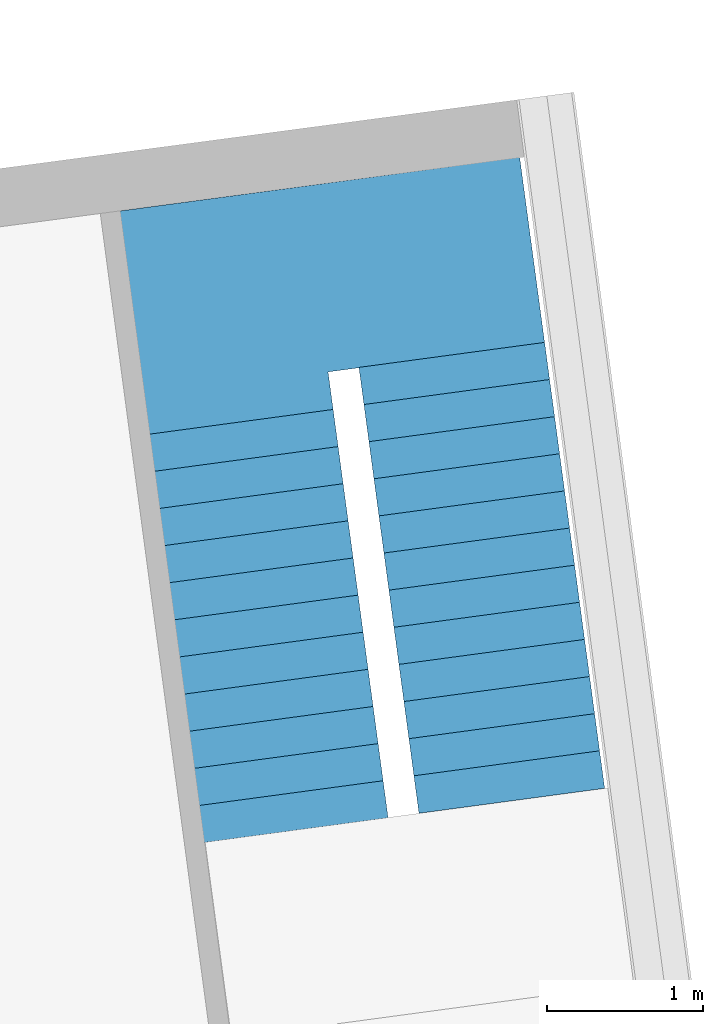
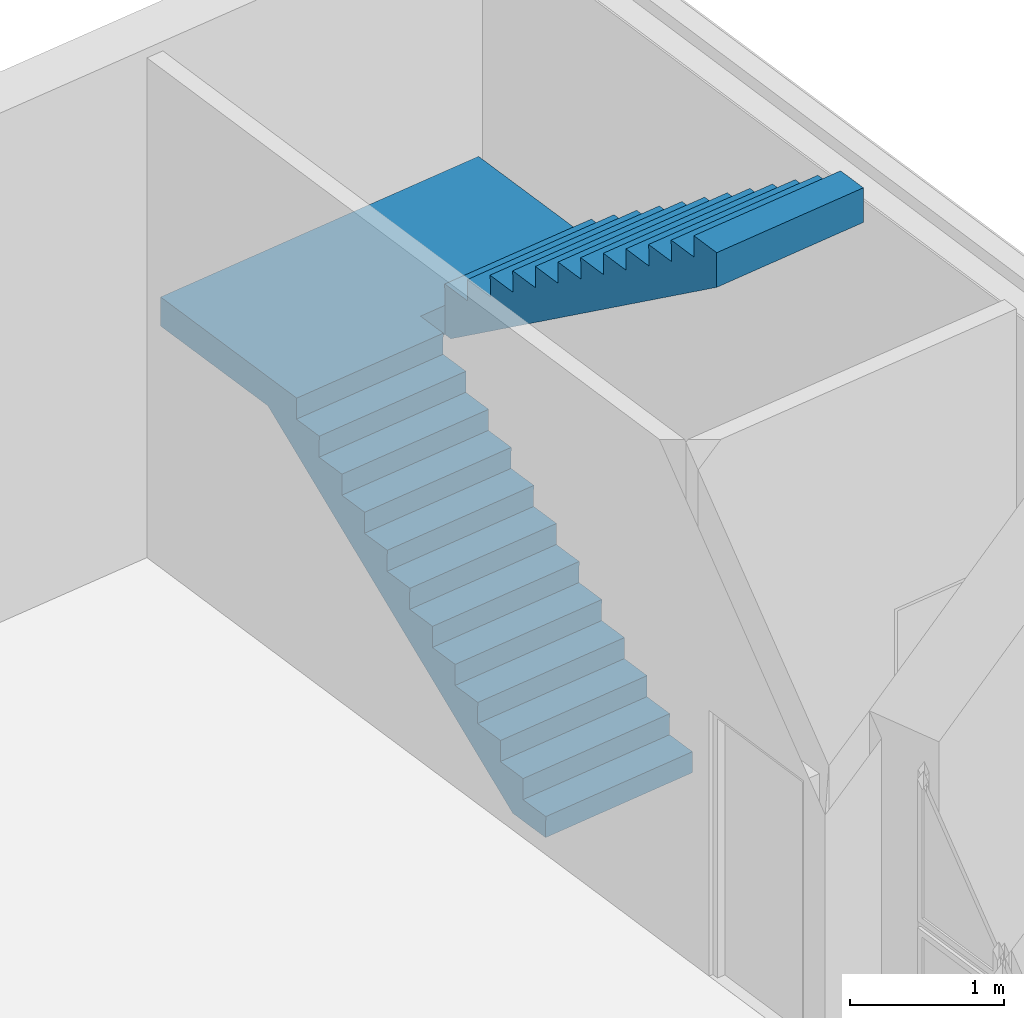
# One storey, part 26 of 27: 1 stair.
"""IFC2X3 building model written with IfcOpenShell, lengths in metres."""

from ifc_helpers import new_model, entity, si_unit, converted_unit, money_unit, direction, frame, origin_with_axes, place, context, subcontext, project, spatial, faceted_brep, material, element, save


model = new_model("IFC2X3")

# Units and contexts
model_context = context("Model", 3, precision=1e-05, world=origin_with_axes(), true_north=direction((0.0, 1.0)))
body_context = subcontext(model_context, "Body", "Model", "MODEL_VIEW")
ifc_project = project(units=[si_unit("LENGTHUNIT", "METRE"), si_unit("AREAUNIT", "SQUARE_METRE"), si_unit("VOLUMEUNIT", "CUBIC_METRE"), converted_unit("PLANEANGLEUNIT", "DEGREE", entity("IfcPlaneAngleMeasure", 0.0174532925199), si_unit("PLANEANGLEUNIT", "RADIAN"), dimensions=[0, 0, 0, 0, 0, 0, 0]), si_unit("SOLIDANGLEUNIT", "STERADIAN"), money_unit("EUR"), converted_unit("TIMEUNIT", "Year", entity("IfcTimeMeasure", 31556926.0), si_unit("TIMEUNIT", "SECOND"), dimensions=[0, 0, 0, 0, 0, 0, 0]), si_unit("MASSUNIT", "GRAM"), si_unit("THERMODYNAMICTEMPERATUREUNIT", "DEGREE_CELSIUS"), si_unit("LUMINOUSINTENSITYUNIT", "LUMEN")], contexts=[model_context])

# Site, building, storey
site_placement = place(None, origin_with_axes())
site = spatial("IfcSite", under=ifc_project, at=site_placement, Name="Undefined", CompositionType="ELEMENT")
building_placement = place(site_placement, origin_with_axes())
building = spatial("IfcBuilding", under=site, at=building_placement, Name="Undefined", CompositionType="ELEMENT")
storey_placement = place(building_placement, frame((0.0, 0.0, 5.4), z_axis=(0.0, 0.0, 1.0), x_axis=(1.0, 0.0, 0.0)))
storey = spatial("IfcBuildingStorey", under=building, at=storey_placement, Name="R+1", CompositionType="ELEMENT", Elevation=5.4)

# Stair
ifc_material = material(Name="Concrete Block")
stair_placement = place(storey_placement, frame((64.9501202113, 23.0953457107, 0.0), z_axis=(0.0, 0.0, 1.0), x_axis=(0.133411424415, -0.99106074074, 0.0)))
element("IfcStair", 1, at=stair_placement, inside=storey, material=ifc_material, Name="Stair_02", ObjectType="STAIR", ShapeType="NOTDEFINED", context=body_context, shape_type="Brep", body=[
    faceted_brep([(-0.349165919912, 0.0, 0.0), (-2.94295473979, 0.0, 1.7825), (-2.94295473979, 1.2, 1.7825), (-0.349165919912, 1.2, 0.0), (-0.02, 0.0, 0.0), (-0.02, 0.0, 0.137708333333), (-0.26, 0.0, 0.137708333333), (-0.26, 0.0, 0.305416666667), (-0.5, 0.0, 0.305416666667), (-0.5, 0.0, 0.473125), (-0.74, 0.0, 0.473125), (-0.74, 0.0, 0.640833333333), (-0.98, 0.0, 0.640833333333), (-0.98, 0.0, 0.808541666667), (-1.22, 0.0, 0.808541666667), (-1.22, 0.0, 0.97625), (-1.46, 0.0, 0.97625), (-1.46, 0.0, 1.14395833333), (-1.7, 0.0, 1.14395833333), (-1.7, 0.0, 1.31166666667), (-1.94, 0.0, 1.31166666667), (-1.94, 0.0, 1.479375), (-2.18, 0.0, 1.479375), (-2.18, 0.0, 1.64708333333), (-2.42, 0.0, 1.64708333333), (-2.42, 0.0, 1.81479166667), (-2.66, 0.0, 1.81479166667), (-2.66, 0.0, 1.9825), (-2.9, 0.0, 1.9825), (-4.08, 0.0, 1.9825), (-4.08, 0.0, 1.7825), (-4.08, 1.2, 1.7825), (-4.08, 1.2, 1.9825), (-2.9, 1.2, 1.9825), (-2.66, 1.2, 1.9825), (-2.66, 1.2, 1.81479166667), (-2.42, 1.2, 1.81479166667), (-2.42, 1.2, 1.64708333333), (-2.18, 1.2, 1.64708333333), (-2.18, 1.2, 1.479375), (-1.94, 1.2, 1.479375), (-1.94, 1.2, 1.31166666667), (-1.7, 1.2, 1.31166666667), (-1.7, 1.2, 1.14395833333), (-1.46, 1.2, 1.14395833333), (-1.46, 1.2, 0.97625), (-1.22, 1.2, 0.97625), (-1.22, 1.2, 0.808541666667), (-0.98, 1.2, 0.808541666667), (-0.98, 1.2, 0.640833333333), (-0.74, 1.2, 0.640833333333), (-0.74, 1.2, 0.473125), (-0.5, 1.2, 0.473125), (-0.5, 1.2, 0.305416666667), (-0.26, 1.2, 0.305416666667), (-0.26, 1.2, 0.137708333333), (-0.02, 1.2, 0.137708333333), (-0.02, 1.2, 0.0)], [[[0, 1, 2, 3]], [[0, 4, 5, 6, 7, 8, 9, 10, 11, 12, 13, 14, 15, 16, 17, 18, 19, 20, 21, 22, 23, 24, 25, 26, 27, 28, 29, 30, 1]], [[1, 30, 31, 2]], [[3, 2, 31, 32, 33, 34, 35, 36, 37, 38, 39, 40, 41, 42, 43, 44, 45, 46, 47, 48, 49, 50, 51, 52, 53, 54, 55, 56, 57]], [[4, 0, 3, 57]], [[5, 4, 57, 56]], [[6, 5, 56, 55]], [[7, 6, 55, 54]], [[8, 7, 54, 53]], [[9, 8, 53, 52]], [[10, 9, 52, 51]], [[11, 10, 51, 50]], [[12, 11, 50, 49]], [[13, 12, 49, 48]], [[14, 13, 48, 47]], [[15, 14, 47, 46]], [[16, 15, 46, 45]], [[17, 16, 45, 44]], [[18, 17, 44, 43]], [[19, 18, 43, 42]], [[20, 19, 42, 41]], [[21, 20, 41, 40]], [[22, 21, 40, 39]], [[23, 22, 39, 38]], [[24, 23, 38, 37]], [[25, 24, 37, 36]], [[26, 25, 36, 35]], [[27, 26, 35, 34]], [[28, 27, 34, 33]], [[29, 28, 33, 32]], [[30, 29, 32, 31]]]),
    faceted_brep([(-2.88, 1.2, 1.9825), (-2.88, 1.2, 1.7825), (-2.88, 1.4, 1.7825), (-2.88, 1.4, 1.9825), (-4.08, 1.2, 1.9825), (-4.08, 1.2, 1.7825), (-2.94295473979, 1.2, 1.7825), (-2.94295473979, 1.4, 1.7825), (-4.08, 1.4, 1.7825), (-4.08, 1.4, 1.9825)], [[[0, 1, 2, 3]], [[0, 4, 5, 6, 1]], [[1, 6, 7, 2]], [[3, 2, 7, 8, 9]], [[4, 0, 3, 9]], [[5, 4, 9, 8]], [[6, 5, 8, 7]]]),
    faceted_brep([(-2.88, 1.4, 1.9825), (-2.88, 1.4, 1.7825), (-2.88, 2.6, 1.7825), (-2.88, 2.6, 1.9825), (-4.08, 1.4, 1.9825), (-4.08, 1.4, 1.7825), (-4.08, 2.6, 1.7825), (-4.08, 2.6, 1.9825)], [[[0, 1, 2, 3]], [[0, 4, 5, 1]], [[1, 5, 6, 2]], [[3, 2, 6, 7]], [[4, 0, 3, 7]], [[5, 4, 7, 6]]]),
    faceted_brep([(-2.88, 1.4, 1.7825), (-2.88, 2.6, 1.7825), (-2.81704526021, 2.6, 1.7825), (-2.81704526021, 1.4, 1.7825), (-2.88, 1.4, 1.9825), (-2.88, 2.6, 1.9825), (-2.86, 2.6, 1.9825), (-2.86, 2.6, 2.15020833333), (-2.62, 2.6, 2.15020833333), (-2.62, 2.6, 2.31791666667), (-2.38, 2.6, 2.31791666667), (-2.38, 2.6, 2.485625), (-2.14, 2.6, 2.485625), (-2.14, 2.6, 2.65333333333), (-1.9, 2.6, 2.65333333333), (-1.9, 2.6, 2.82104166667), (-1.66, 2.6, 2.82104166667), (-1.66, 2.6, 2.98875), (-1.42, 2.6, 2.98875), (-1.42, 2.6, 3.15645833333), (-1.18, 2.6, 3.15645833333), (-1.18, 2.6, 3.32416666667), (-0.94, 2.6, 3.32416666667), (-0.94, 2.6, 3.491875), (-0.7, 2.6, 3.491875), (-0.7, 2.6, 3.65958333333), (-0.46, 2.6, 3.65958333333), (-0.46, 2.6, 3.82729166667), (-0.22, 2.6, 3.82729166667), (-0.22, 2.6, 3.995), (0.0, 2.6, 3.995), (0.0, 2.6, 3.75100818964), (0.0, 1.4, 3.75100818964), (0.0, 1.4, 3.995), (-0.22, 1.4, 3.995), (-0.22, 1.4, 3.82729166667), (-0.46, 1.4, 3.82729166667), (-0.46, 1.4, 3.65958333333), (-0.7, 1.4, 3.65958333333), (-0.7, 1.4, 3.491875), (-0.94, 1.4, 3.491875), (-0.94, 1.4, 3.32416666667), (-1.18, 1.4, 3.32416666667), (-1.18, 1.4, 3.15645833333), (-1.42, 1.4, 3.15645833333), (-1.42, 1.4, 2.98875), (-1.66, 1.4, 2.98875), (-1.66, 1.4, 2.82104166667), (-1.9, 1.4, 2.82104166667), (-1.9, 1.4, 2.65333333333), (-2.14, 1.4, 2.65333333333), (-2.14, 1.4, 2.485625), (-2.38, 1.4, 2.485625), (-2.38, 1.4, 2.31791666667), (-2.62, 1.4, 2.31791666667), (-2.62, 1.4, 2.15020833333), (-2.86, 1.4, 2.15020833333), (-2.86, 1.4, 1.9825)], [[[0, 1, 2, 3]], [[4, 5, 1, 0]], [[1, 5, 6, 7, 8, 9, 10, 11, 12, 13, 14, 15, 16, 17, 18, 19, 20, 21, 22, 23, 24, 25, 26, 27, 28, 29, 30, 31, 2]], [[3, 2, 31, 32]], [[0, 3, 32, 33, 34, 35, 36, 37, 38, 39, 40, 41, 42, 43, 44, 45, 46, 47, 48, 49, 50, 51, 52, 53, 54, 55, 56, 57, 4]], [[57, 6, 5, 4]], [[56, 7, 6, 57]], [[55, 8, 7, 56]], [[54, 9, 8, 55]], [[53, 10, 9, 54]], [[52, 11, 10, 53]], [[51, 12, 11, 52]], [[50, 13, 12, 51]], [[49, 14, 13, 50]], [[48, 15, 14, 49]], [[47, 16, 15, 48]], [[46, 17, 16, 47]], [[45, 18, 17, 46]], [[44, 19, 18, 45]], [[43, 20, 19, 44]], [[42, 21, 20, 43]], [[41, 22, 21, 42]], [[40, 23, 22, 41]], [[39, 24, 23, 40]], [[38, 25, 24, 39]], [[37, 26, 25, 38]], [[36, 27, 26, 37]], [[35, 28, 27, 36]], [[34, 29, 28, 35]], [[33, 30, 29, 34]], [[32, 31, 30, 33]]]),
    faceted_brep([(0.0, 0.0, 0.0), (-0.02, 0.0, 0.0), (-0.02, 1.2, 0.0), (0.0, 1.2, 0.0), (0.0, 0.0, 0.137708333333), (-0.02, 0.0, 0.137708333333), (-0.02, 1.2, 0.137708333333), (0.0, 1.2, 0.137708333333)], [[[0, 1, 2, 3]], [[0, 4, 5, 1]], [[1, 5, 6, 2]], [[3, 2, 6, 7]], [[4, 0, 3, 7]], [[5, 4, 7, 6]]]),
    faceted_brep([(-0.24, 0.0, 0.167708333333), (-0.26, 0.0, 0.167708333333), (-0.26, 1.2, 0.167708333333), (-0.24, 1.2, 0.167708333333), (-0.24, 0.0, 0.305416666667), (-0.26, 0.0, 0.305416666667), (-0.26, 1.2, 0.305416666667), (-0.24, 1.2, 0.305416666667)], [[[0, 1, 2, 3]], [[0, 4, 5, 1]], [[1, 5, 6, 2]], [[3, 2, 6, 7]], [[4, 0, 3, 7]], [[5, 4, 7, 6]]]),
    faceted_brep([(-0.48, 0.0, 0.335416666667), (-0.5, 0.0, 0.335416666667), (-0.5, 1.2, 0.335416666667), (-0.48, 1.2, 0.335416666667), (-0.48, 0.0, 0.473125), (-0.5, 0.0, 0.473125), (-0.5, 1.2, 0.473125), (-0.48, 1.2, 0.473125)], [[[0, 1, 2, 3]], [[0, 4, 5, 1]], [[1, 5, 6, 2]], [[3, 2, 6, 7]], [[4, 0, 3, 7]], [[5, 4, 7, 6]]]),
    faceted_brep([(-0.72, 0.0, 0.503125), (-0.74, 0.0, 0.503125), (-0.74, 1.2, 0.503125), (-0.72, 1.2, 0.503125), (-0.72, 0.0, 0.640833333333), (-0.74, 0.0, 0.640833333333), (-0.74, 1.2, 0.640833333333), (-0.72, 1.2, 0.640833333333)], [[[0, 1, 2, 3]], [[0, 4, 5, 1]], [[1, 5, 6, 2]], [[3, 2, 6, 7]], [[4, 0, 3, 7]], [[5, 4, 7, 6]]]),
    faceted_brep([(-0.96, 0.0, 0.670833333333), (-0.98, 0.0, 0.670833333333), (-0.98, 1.2, 0.670833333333), (-0.96, 1.2, 0.670833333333), (-0.96, 0.0, 0.808541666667), (-0.98, 0.0, 0.808541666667), (-0.98, 1.2, 0.808541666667), (-0.96, 1.2, 0.808541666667)], [[[0, 1, 2, 3]], [[0, 4, 5, 1]], [[1, 5, 6, 2]], [[3, 2, 6, 7]], [[4, 0, 3, 7]], [[5, 4, 7, 6]]]),
    faceted_brep([(-1.2, 0.0, 0.838541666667), (-1.22, 0.0, 0.838541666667), (-1.22, 1.2, 0.838541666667), (-1.2, 1.2, 0.838541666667), (-1.2, 0.0, 0.97625), (-1.22, 0.0, 0.97625), (-1.22, 1.2, 0.97625), (-1.2, 1.2, 0.97625)], [[[0, 1, 2, 3]], [[0, 4, 5, 1]], [[1, 5, 6, 2]], [[3, 2, 6, 7]], [[4, 0, 3, 7]], [[5, 4, 7, 6]]]),
    faceted_brep([(-1.44, 0.0, 1.00625), (-1.46, 0.0, 1.00625), (-1.46, 1.2, 1.00625), (-1.44, 1.2, 1.00625), (-1.44, 0.0, 1.14395833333), (-1.46, 0.0, 1.14395833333), (-1.46, 1.2, 1.14395833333), (-1.44, 1.2, 1.14395833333)], [[[0, 1, 2, 3]], [[0, 4, 5, 1]], [[1, 5, 6, 2]], [[3, 2, 6, 7]], [[4, 0, 3, 7]], [[5, 4, 7, 6]]]),
    faceted_brep([(-1.68, 0.0, 1.17395833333), (-1.7, 0.0, 1.17395833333), (-1.7, 1.2, 1.17395833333), (-1.68, 1.2, 1.17395833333), (-1.68, 0.0, 1.31166666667), (-1.7, 0.0, 1.31166666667), (-1.7, 1.2, 1.31166666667), (-1.68, 1.2, 1.31166666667)], [[[0, 1, 2, 3]], [[0, 4, 5, 1]], [[1, 5, 6, 2]], [[3, 2, 6, 7]], [[4, 0, 3, 7]], [[5, 4, 7, 6]]]),
    faceted_brep([(-1.92, 0.0, 1.34166666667), (-1.94, 0.0, 1.34166666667), (-1.94, 1.2, 1.34166666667), (-1.92, 1.2, 1.34166666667), (-1.92, 0.0, 1.479375), (-1.94, 0.0, 1.479375), (-1.94, 1.2, 1.479375), (-1.92, 1.2, 1.479375)], [[[0, 1, 2, 3]], [[0, 4, 5, 1]], [[1, 5, 6, 2]], [[3, 2, 6, 7]], [[4, 0, 3, 7]], [[5, 4, 7, 6]]]),
    faceted_brep([(-2.16, 0.0, 1.509375), (-2.18, 0.0, 1.509375), (-2.18, 1.2, 1.509375), (-2.16, 1.2, 1.509375), (-2.16, 0.0, 1.64708333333), (-2.18, 0.0, 1.64708333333), (-2.18, 1.2, 1.64708333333), (-2.16, 1.2, 1.64708333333)], [[[0, 1, 2, 3]], [[0, 4, 5, 1]], [[1, 5, 6, 2]], [[3, 2, 6, 7]], [[4, 0, 3, 7]], [[5, 4, 7, 6]]]),
    faceted_brep([(-2.4, 0.0, 1.67708333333), (-2.42, 0.0, 1.67708333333), (-2.42, 1.2, 1.67708333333), (-2.4, 1.2, 1.67708333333), (-2.4, 0.0, 1.81479166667), (-2.42, 0.0, 1.81479166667), (-2.42, 1.2, 1.81479166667), (-2.4, 1.2, 1.81479166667)], [[[0, 1, 2, 3]], [[0, 4, 5, 1]], [[1, 5, 6, 2]], [[3, 2, 6, 7]], [[4, 0, 3, 7]], [[5, 4, 7, 6]]]),
    faceted_brep([(-2.64, 0.0, 1.84479166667), (-2.66, 0.0, 1.84479166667), (-2.66, 1.2, 1.84479166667), (-2.64, 1.2, 1.84479166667), (-2.64, 0.0, 1.9825), (-2.66, 0.0, 1.9825), (-2.66, 1.2, 1.9825), (-2.64, 1.2, 1.9825)], [[[0, 1, 2, 3]], [[0, 4, 5, 1]], [[1, 5, 6, 2]], [[3, 2, 6, 7]], [[4, 0, 3, 7]], [[5, 4, 7, 6]]]),
    faceted_brep([(-2.88, 1.4, 2.0125), (-2.88, 2.6, 2.0125), (-2.86, 2.6, 2.0125), (-2.86, 1.4, 2.0125), (-2.88, 1.4, 2.15020833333), (-2.88, 2.6, 2.15020833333), (-2.86, 2.6, 2.15020833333), (-2.86, 1.4, 2.15020833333)], [[[0, 1, 2, 3]], [[4, 5, 1, 0]], [[1, 5, 6, 2]], [[3, 2, 6, 7]], [[0, 3, 7, 4]], [[7, 6, 5, 4]]]),
    faceted_brep([(-2.64, 1.4, 2.18020833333), (-2.64, 2.6, 2.18020833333), (-2.62, 2.6, 2.18020833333), (-2.62, 1.4, 2.18020833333), (-2.64, 1.4, 2.31791666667), (-2.64, 2.6, 2.31791666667), (-2.62, 2.6, 2.31791666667), (-2.62, 1.4, 2.31791666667)], [[[0, 1, 2, 3]], [[4, 5, 1, 0]], [[1, 5, 6, 2]], [[3, 2, 6, 7]], [[0, 3, 7, 4]], [[7, 6, 5, 4]]]),
    faceted_brep([(-2.4, 1.4, 2.34791666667), (-2.4, 2.6, 2.34791666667), (-2.38, 2.6, 2.34791666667), (-2.38, 1.4, 2.34791666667), (-2.4, 1.4, 2.485625), (-2.4, 2.6, 2.485625), (-2.38, 2.6, 2.485625), (-2.38, 1.4, 2.485625)], [[[0, 1, 2, 3]], [[4, 5, 1, 0]], [[1, 5, 6, 2]], [[3, 2, 6, 7]], [[0, 3, 7, 4]], [[7, 6, 5, 4]]]),
    faceted_brep([(-2.16, 1.4, 2.515625), (-2.16, 2.6, 2.515625), (-2.14, 2.6, 2.515625), (-2.14, 1.4, 2.515625), (-2.16, 1.4, 2.65333333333), (-2.16, 2.6, 2.65333333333), (-2.14, 2.6, 2.65333333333), (-2.14, 1.4, 2.65333333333)], [[[0, 1, 2, 3]], [[4, 5, 1, 0]], [[1, 5, 6, 2]], [[3, 2, 6, 7]], [[0, 3, 7, 4]], [[7, 6, 5, 4]]]),
    faceted_brep([(-1.92, 1.4, 2.68333333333), (-1.92, 2.6, 2.68333333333), (-1.9, 2.6, 2.68333333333), (-1.9, 1.4, 2.68333333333), (-1.92, 1.4, 2.82104166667), (-1.92, 2.6, 2.82104166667), (-1.9, 2.6, 2.82104166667), (-1.9, 1.4, 2.82104166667)], [[[0, 1, 2, 3]], [[4, 5, 1, 0]], [[1, 5, 6, 2]], [[3, 2, 6, 7]], [[0, 3, 7, 4]], [[7, 6, 5, 4]]]),
    faceted_brep([(-1.68, 1.4, 2.85104166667), (-1.68, 2.6, 2.85104166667), (-1.66, 2.6, 2.85104166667), (-1.66, 1.4, 2.85104166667), (-1.68, 1.4, 2.98875), (-1.68, 2.6, 2.98875), (-1.66, 2.6, 2.98875), (-1.66, 1.4, 2.98875)], [[[0, 1, 2, 3]], [[4, 5, 1, 0]], [[1, 5, 6, 2]], [[3, 2, 6, 7]], [[0, 3, 7, 4]], [[7, 6, 5, 4]]]),
    faceted_brep([(-1.44, 1.4, 3.01875), (-1.44, 2.6, 3.01875), (-1.42, 2.6, 3.01875), (-1.42, 1.4, 3.01875), (-1.44, 1.4, 3.15645833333), (-1.44, 2.6, 3.15645833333), (-1.42, 2.6, 3.15645833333), (-1.42, 1.4, 3.15645833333)], [[[0, 1, 2, 3]], [[4, 5, 1, 0]], [[1, 5, 6, 2]], [[3, 2, 6, 7]], [[0, 3, 7, 4]], [[7, 6, 5, 4]]]),
    faceted_brep([(-1.2, 1.4, 3.18645833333), (-1.2, 2.6, 3.18645833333), (-1.18, 2.6, 3.18645833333), (-1.18, 1.4, 3.18645833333), (-1.2, 1.4, 3.32416666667), (-1.2, 2.6, 3.32416666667), (-1.18, 2.6, 3.32416666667), (-1.18, 1.4, 3.32416666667)], [[[0, 1, 2, 3]], [[4, 5, 1, 0]], [[1, 5, 6, 2]], [[3, 2, 6, 7]], [[0, 3, 7, 4]], [[7, 6, 5, 4]]]),
    faceted_brep([(-0.96, 1.4, 3.35416666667), (-0.96, 2.6, 3.35416666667), (-0.94, 2.6, 3.35416666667), (-0.94, 1.4, 3.35416666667), (-0.96, 1.4, 3.491875), (-0.96, 2.6, 3.491875), (-0.94, 2.6, 3.491875), (-0.94, 1.4, 3.491875)], [[[0, 1, 2, 3]], [[4, 5, 1, 0]], [[1, 5, 6, 2]], [[3, 2, 6, 7]], [[0, 3, 7, 4]], [[7, 6, 5, 4]]]),
    faceted_brep([(-0.72, 1.4, 3.521875), (-0.72, 2.6, 3.521875), (-0.7, 2.6, 3.521875), (-0.7, 1.4, 3.521875), (-0.72, 1.4, 3.65958333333), (-0.72, 2.6, 3.65958333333), (-0.7, 2.6, 3.65958333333), (-0.7, 1.4, 3.65958333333)], [[[0, 1, 2, 3]], [[4, 5, 1, 0]], [[1, 5, 6, 2]], [[3, 2, 6, 7]], [[0, 3, 7, 4]], [[7, 6, 5, 4]]]),
    faceted_brep([(-0.48, 1.4, 3.68958333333), (-0.48, 2.6, 3.68958333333), (-0.46, 2.6, 3.68958333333), (-0.46, 1.4, 3.68958333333), (-0.48, 1.4, 3.82729166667), (-0.48, 2.6, 3.82729166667), (-0.46, 2.6, 3.82729166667), (-0.46, 1.4, 3.82729166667)], [[[0, 1, 2, 3]], [[4, 5, 1, 0]], [[1, 5, 6, 2]], [[3, 2, 6, 7]], [[0, 3, 7, 4]], [[7, 6, 5, 4]]]),
    faceted_brep([(-0.24, 1.4, 3.85729166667), (-0.24, 2.6, 3.85729166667), (-0.22, 2.6, 3.85729166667), (-0.22, 1.4, 3.85729166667), (-0.24, 1.4, 3.995), (-0.24, 2.6, 3.995), (-0.22, 2.6, 3.995), (-0.22, 1.4, 3.995)], [[[0, 1, 2, 3]], [[4, 5, 1, 0]], [[1, 5, 6, 2]], [[3, 2, 6, 7]], [[0, 3, 7, 4]], [[7, 6, 5, 4]]]),
    faceted_brep([(0.0025, 0.0, 0.137708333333), (-0.26, 0.0, 0.137708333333), (-0.26, 1.2, 0.137708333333), (0.0025, 1.2, 0.137708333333), (0.0025, 0.0, 0.167708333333), (-0.26, 0.0, 0.167708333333), (-0.26, 1.2, 0.167708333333), (0.0025, 1.2, 0.167708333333)], [[[0, 1, 2, 3]], [[0, 4, 5, 1]], [[1, 5, 6, 2]], [[3, 2, 6, 7]], [[4, 0, 3, 7]], [[5, 4, 7, 6]]]),
    faceted_brep([(-0.2375, 0.0, 0.305416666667), (-0.5, 0.0, 0.305416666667), (-0.5, 1.2, 0.305416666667), (-0.2375, 1.2, 0.305416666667), (-0.2375, 0.0, 0.335416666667), (-0.5, 0.0, 0.335416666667), (-0.5, 1.2, 0.335416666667), (-0.2375, 1.2, 0.335416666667)], [[[0, 1, 2, 3]], [[0, 4, 5, 1]], [[1, 5, 6, 2]], [[3, 2, 6, 7]], [[4, 0, 3, 7]], [[5, 4, 7, 6]]]),
    faceted_brep([(-0.4775, 0.0, 0.473125), (-0.74, 0.0, 0.473125), (-0.74, 1.2, 0.473125), (-0.4775, 1.2, 0.473125), (-0.4775, 0.0, 0.503125), (-0.74, 0.0, 0.503125), (-0.74, 1.2, 0.503125), (-0.4775, 1.2, 0.503125)], [[[0, 1, 2, 3]], [[0, 4, 5, 1]], [[1, 5, 6, 2]], [[3, 2, 6, 7]], [[4, 0, 3, 7]], [[5, 4, 7, 6]]]),
    faceted_brep([(-0.7175, 0.0, 0.640833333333), (-0.98, 0.0, 0.640833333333), (-0.98, 1.2, 0.640833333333), (-0.7175, 1.2, 0.640833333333), (-0.7175, 0.0, 0.670833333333), (-0.98, 0.0, 0.670833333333), (-0.98, 1.2, 0.670833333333), (-0.7175, 1.2, 0.670833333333)], [[[0, 1, 2, 3]], [[0, 4, 5, 1]], [[1, 5, 6, 2]], [[3, 2, 6, 7]], [[4, 0, 3, 7]], [[5, 4, 7, 6]]]),
    faceted_brep([(-0.9575, 0.0, 0.808541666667), (-1.22, 0.0, 0.808541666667), (-1.22, 1.2, 0.808541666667), (-0.9575, 1.2, 0.808541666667), (-0.9575, 0.0, 0.838541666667), (-1.22, 0.0, 0.838541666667), (-1.22, 1.2, 0.838541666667), (-0.9575, 1.2, 0.838541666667)], [[[0, 1, 2, 3]], [[0, 4, 5, 1]], [[1, 5, 6, 2]], [[3, 2, 6, 7]], [[4, 0, 3, 7]], [[5, 4, 7, 6]]]),
    faceted_brep([(-1.1975, 0.0, 0.97625), (-1.46, 0.0, 0.97625), (-1.46, 1.2, 0.97625), (-1.1975, 1.2, 0.97625), (-1.1975, 0.0, 1.00625), (-1.46, 0.0, 1.00625), (-1.46, 1.2, 1.00625), (-1.1975, 1.2, 1.00625)], [[[0, 1, 2, 3]], [[0, 4, 5, 1]], [[1, 5, 6, 2]], [[3, 2, 6, 7]], [[4, 0, 3, 7]], [[5, 4, 7, 6]]]),
    faceted_brep([(-1.4375, 0.0, 1.14395833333), (-1.7, 0.0, 1.14395833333), (-1.7, 1.2, 1.14395833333), (-1.4375, 1.2, 1.14395833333), (-1.4375, 0.0, 1.17395833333), (-1.7, 0.0, 1.17395833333), (-1.7, 1.2, 1.17395833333), (-1.4375, 1.2, 1.17395833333)], [[[0, 1, 2, 3]], [[0, 4, 5, 1]], [[1, 5, 6, 2]], [[3, 2, 6, 7]], [[4, 0, 3, 7]], [[5, 4, 7, 6]]]),
    faceted_brep([(-1.6775, 0.0, 1.31166666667), (-1.94, 0.0, 1.31166666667), (-1.94, 1.2, 1.31166666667), (-1.6775, 1.2, 1.31166666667), (-1.6775, 0.0, 1.34166666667), (-1.94, 0.0, 1.34166666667), (-1.94, 1.2, 1.34166666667), (-1.6775, 1.2, 1.34166666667)], [[[0, 1, 2, 3]], [[0, 4, 5, 1]], [[1, 5, 6, 2]], [[3, 2, 6, 7]], [[4, 0, 3, 7]], [[5, 4, 7, 6]]]),
    faceted_brep([(-1.9175, 0.0, 1.479375), (-2.18, 0.0, 1.479375), (-2.18, 1.2, 1.479375), (-1.9175, 1.2, 1.479375), (-1.9175, 0.0, 1.509375), (-2.18, 0.0, 1.509375), (-2.18, 1.2, 1.509375), (-1.9175, 1.2, 1.509375)], [[[0, 1, 2, 3]], [[0, 4, 5, 1]], [[1, 5, 6, 2]], [[3, 2, 6, 7]], [[4, 0, 3, 7]], [[5, 4, 7, 6]]]),
    faceted_brep([(-2.1575, 0.0, 1.64708333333), (-2.42, 0.0, 1.64708333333), (-2.42, 1.2, 1.64708333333), (-2.1575, 1.2, 1.64708333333), (-2.1575, 0.0, 1.67708333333), (-2.42, 0.0, 1.67708333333), (-2.42, 1.2, 1.67708333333), (-2.1575, 1.2, 1.67708333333)], [[[0, 1, 2, 3]], [[0, 4, 5, 1]], [[1, 5, 6, 2]], [[3, 2, 6, 7]], [[4, 0, 3, 7]], [[5, 4, 7, 6]]]),
    faceted_brep([(-2.3975, 0.0, 1.81479166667), (-2.66, 0.0, 1.81479166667), (-2.66, 1.2, 1.81479166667), (-2.3975, 1.2, 1.81479166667), (-2.3975, 0.0, 1.84479166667), (-2.66, 0.0, 1.84479166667), (-2.66, 1.2, 1.84479166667), (-2.3975, 1.2, 1.84479166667)], [[[0, 1, 2, 3]], [[0, 4, 5, 1]], [[1, 5, 6, 2]], [[3, 2, 6, 7]], [[4, 0, 3, 7]], [[5, 4, 7, 6]]]),
    faceted_brep([(-2.6375, 0.0, 1.9825), (-2.88, 0.0, 1.9825), (-2.88, 1.2, 1.9825), (-2.6375, 1.2, 1.9825), (-2.6375, 0.0, 2.0125), (-2.88, 0.0, 2.0125), (-2.88, 1.2, 2.0125), (-2.6375, 1.2, 2.0125)], [[[0, 1, 2, 3]], [[0, 4, 5, 1]], [[1, 5, 6, 2]], [[3, 2, 6, 7]], [[4, 0, 3, 7]], [[5, 4, 7, 6]]]),
    faceted_brep([(-4.08, 0.0, 1.9825), (-4.08, 0.0, 2.0125), (-4.08, 1.4, 2.0125), (-4.08, 1.4, 1.9825), (-2.88, 0.0, 1.9825), (-2.88, 0.0, 2.0125), (-2.88, 1.4, 2.0125), (-2.88, 1.4, 1.9825)], [[[0, 1, 2, 3]], [[0, 4, 5, 1]], [[1, 5, 6, 2]], [[3, 2, 6, 7]], [[4, 0, 3, 7]], [[5, 4, 7, 6]]]),
    faceted_brep([(-4.08, 1.4, 1.9825), (-4.08, 1.4, 2.0125), (-4.08, 2.6, 2.0125), (-4.08, 2.6, 1.9825), (-2.86, 1.4, 1.9825), (-2.86, 1.4, 2.0125), (-2.86, 2.6, 2.0125), (-2.86, 2.6, 1.9825)], [[[0, 1, 2, 3]], [[0, 4, 5, 1]], [[1, 5, 6, 2]], [[3, 2, 6, 7]], [[4, 0, 3, 7]], [[5, 4, 7, 6]]]),
    faceted_brep([(-2.8825, 1.4, 2.15020833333), (-2.8825, 2.6, 2.15020833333), (-2.62, 2.6, 2.15020833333), (-2.62, 1.4, 2.15020833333), (-2.8825, 1.4, 2.18020833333), (-2.8825, 2.6, 2.18020833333), (-2.62, 2.6, 2.18020833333), (-2.62, 1.4, 2.18020833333)], [[[0, 1, 2, 3]], [[4, 5, 1, 0]], [[1, 5, 6, 2]], [[3, 2, 6, 7]], [[0, 3, 7, 4]], [[7, 6, 5, 4]]]),
    faceted_brep([(-2.6425, 1.4, 2.31791666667), (-2.6425, 2.6, 2.31791666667), (-2.38, 2.6, 2.31791666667), (-2.38, 1.4, 2.31791666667), (-2.6425, 1.4, 2.34791666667), (-2.6425, 2.6, 2.34791666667), (-2.38, 2.6, 2.34791666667), (-2.38, 1.4, 2.34791666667)], [[[0, 1, 2, 3]], [[4, 5, 1, 0]], [[1, 5, 6, 2]], [[3, 2, 6, 7]], [[0, 3, 7, 4]], [[7, 6, 5, 4]]]),
    faceted_brep([(-2.4025, 1.4, 2.485625), (-2.4025, 2.6, 2.485625), (-2.14, 2.6, 2.485625), (-2.14, 1.4, 2.485625), (-2.4025, 1.4, 2.515625), (-2.4025, 2.6, 2.515625), (-2.14, 2.6, 2.515625), (-2.14, 1.4, 2.515625)], [[[0, 1, 2, 3]], [[4, 5, 1, 0]], [[1, 5, 6, 2]], [[3, 2, 6, 7]], [[0, 3, 7, 4]], [[7, 6, 5, 4]]]),
    faceted_brep([(-2.1625, 1.4, 2.65333333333), (-2.1625, 2.6, 2.65333333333), (-1.9, 2.6, 2.65333333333), (-1.9, 1.4, 2.65333333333), (-2.1625, 1.4, 2.68333333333), (-2.1625, 2.6, 2.68333333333), (-1.9, 2.6, 2.68333333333), (-1.9, 1.4, 2.68333333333)], [[[0, 1, 2, 3]], [[4, 5, 1, 0]], [[1, 5, 6, 2]], [[3, 2, 6, 7]], [[0, 3, 7, 4]], [[7, 6, 5, 4]]]),
    faceted_brep([(-1.9225, 1.4, 2.82104166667), (-1.9225, 2.6, 2.82104166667), (-1.66, 2.6, 2.82104166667), (-1.66, 1.4, 2.82104166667), (-1.9225, 1.4, 2.85104166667), (-1.9225, 2.6, 2.85104166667), (-1.66, 2.6, 2.85104166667), (-1.66, 1.4, 2.85104166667)], [[[0, 1, 2, 3]], [[4, 5, 1, 0]], [[1, 5, 6, 2]], [[3, 2, 6, 7]], [[0, 3, 7, 4]], [[7, 6, 5, 4]]]),
    faceted_brep([(-1.6825, 1.4, 2.98875), (-1.6825, 2.6, 2.98875), (-1.42, 2.6, 2.98875), (-1.42, 1.4, 2.98875), (-1.6825, 1.4, 3.01875), (-1.6825, 2.6, 3.01875), (-1.42, 2.6, 3.01875), (-1.42, 1.4, 3.01875)], [[[0, 1, 2, 3]], [[4, 5, 1, 0]], [[1, 5, 6, 2]], [[3, 2, 6, 7]], [[0, 3, 7, 4]], [[7, 6, 5, 4]]]),
    faceted_brep([(-1.4425, 1.4, 3.15645833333), (-1.4425, 2.6, 3.15645833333), (-1.18, 2.6, 3.15645833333), (-1.18, 1.4, 3.15645833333), (-1.4425, 1.4, 3.18645833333), (-1.4425, 2.6, 3.18645833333), (-1.18, 2.6, 3.18645833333), (-1.18, 1.4, 3.18645833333)], [[[0, 1, 2, 3]], [[4, 5, 1, 0]], [[1, 5, 6, 2]], [[3, 2, 6, 7]], [[0, 3, 7, 4]], [[7, 6, 5, 4]]]),
    faceted_brep([(-1.2025, 1.4, 3.32416666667), (-1.2025, 2.6, 3.32416666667), (-0.94, 2.6, 3.32416666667), (-0.94, 1.4, 3.32416666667), (-1.2025, 1.4, 3.35416666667), (-1.2025, 2.6, 3.35416666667), (-0.94, 2.6, 3.35416666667), (-0.94, 1.4, 3.35416666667)], [[[0, 1, 2, 3]], [[4, 5, 1, 0]], [[1, 5, 6, 2]], [[3, 2, 6, 7]], [[0, 3, 7, 4]], [[7, 6, 5, 4]]]),
    faceted_brep([(-0.9625, 1.4, 3.491875), (-0.9625, 2.6, 3.491875), (-0.7, 2.6, 3.491875), (-0.7, 1.4, 3.491875), (-0.9625, 1.4, 3.521875), (-0.9625, 2.6, 3.521875), (-0.7, 2.6, 3.521875), (-0.7, 1.4, 3.521875)], [[[0, 1, 2, 3]], [[4, 5, 1, 0]], [[1, 5, 6, 2]], [[3, 2, 6, 7]], [[0, 3, 7, 4]], [[7, 6, 5, 4]]]),
    faceted_brep([(-0.7225, 1.4, 3.65958333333), (-0.7225, 2.6, 3.65958333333), (-0.46, 2.6, 3.65958333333), (-0.46, 1.4, 3.65958333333), (-0.7225, 1.4, 3.68958333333), (-0.7225, 2.6, 3.68958333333), (-0.46, 2.6, 3.68958333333), (-0.46, 1.4, 3.68958333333)], [[[0, 1, 2, 3]], [[4, 5, 1, 0]], [[1, 5, 6, 2]], [[3, 2, 6, 7]], [[0, 3, 7, 4]], [[7, 6, 5, 4]]]),
    faceted_brep([(-0.4825, 1.4, 3.82729166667), (-0.4825, 2.6, 3.82729166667), (-0.22, 2.6, 3.82729166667), (-0.22, 1.4, 3.82729166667), (-0.4825, 1.4, 3.85729166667), (-0.4825, 2.6, 3.85729166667), (-0.22, 2.6, 3.85729166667), (-0.22, 1.4, 3.85729166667)], [[[0, 1, 2, 3]], [[4, 5, 1, 0]], [[1, 5, 6, 2]], [[3, 2, 6, 7]], [[0, 3, 7, 4]], [[7, 6, 5, 4]]]),
    faceted_brep([(-0.2425, 1.4, 3.995), (-0.2425, 2.6, 3.995), (0.0, 2.6, 3.995), (0.0, 1.4, 3.995), (-0.2425, 1.4, 4.025), (-0.2425, 2.6, 4.025), (0.0, 2.6, 4.025), (0.0, 1.4, 4.025)], [[[0, 1, 2, 3]], [[4, 5, 1, 0]], [[1, 5, 6, 2]], [[3, 2, 6, 7]], [[0, 3, 7, 4]], [[7, 6, 5, 4]]]),
])

save(model, "model.ifc")
